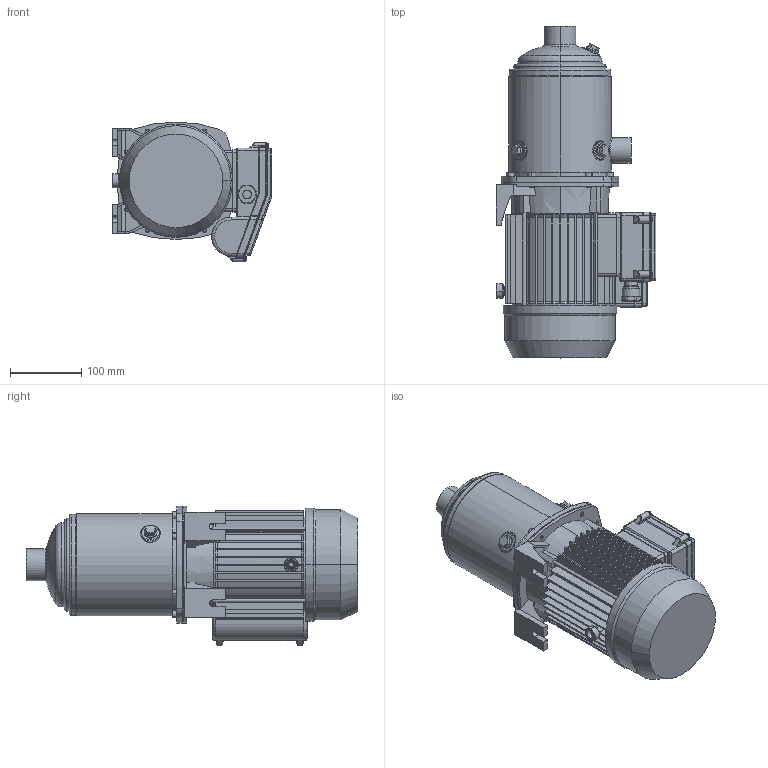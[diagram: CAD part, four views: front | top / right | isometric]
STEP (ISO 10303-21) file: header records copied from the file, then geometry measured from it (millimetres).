
FILE_DESCRIPTION((''),'2;1');
FILE_NAME('MATRIX_5-6T_1_3_M_ASM','2017-04-07T',('rosa'),('"Ebara Pumps Europe +39.444.706811"'),'PRO/ENGINEER BY PARAMETRIC TECHNOLOGY CORPORATION, 2012130','PRO/ENGINEER BY PARAMETRIC TECHNOLOGY CORPORATION, 2012130','');
FILE_SCHEMA(('AUTOMOTIVE_DESIGN { 1 0 10303 214 1 1 1 1 }'));
Length unit declared in the file: millimetre
Products named in the file (6): CORPO_POMPA_MATRIX_5-6; SUPPORTO_MATRIX_MEC_80; MEC_80_MONOFASE; 72229; COPRIMORSETTIERA_MEC80_90_M; MATRIX_5-6T_1_3_M_ASM
Assembly tree (5 placements, depth 2):
  MATRIX_5-6T_1_3_M_ASM
    CORPO_POMPA_MATRIX_5-6
    SUPPORTO_MATRIX_MEC_80
    MEC_80_MONOFASE
    72229
    COPRIMORSETTIERA_MEC80_90_M
Bounding box: 225 x 466.8 x 196.5 mm (x, y, z)
Volume: 6371531.5 mm3; surface area: 602060.7 mm2
Topology: 5 solids, 5 shells, 960 faces, 2294 edges, 1391 vertices
Faces by surface type: plane 427, cylinder 303, cone 108, torus 62, bspline 56, sphere 4
Entity records: 38987 total; most frequent: CARTESIAN_POINT 9199, DIRECTION 4712, ORIENTED_EDGE 4588, EDGE_CURVE 2294, PRESENTATION_STYLE_ASSIGNMENT 2248, STYLED_ITEM 2248, CURVE_STYLE 2244, AXIS2_PLACEMENT_3D 1815
